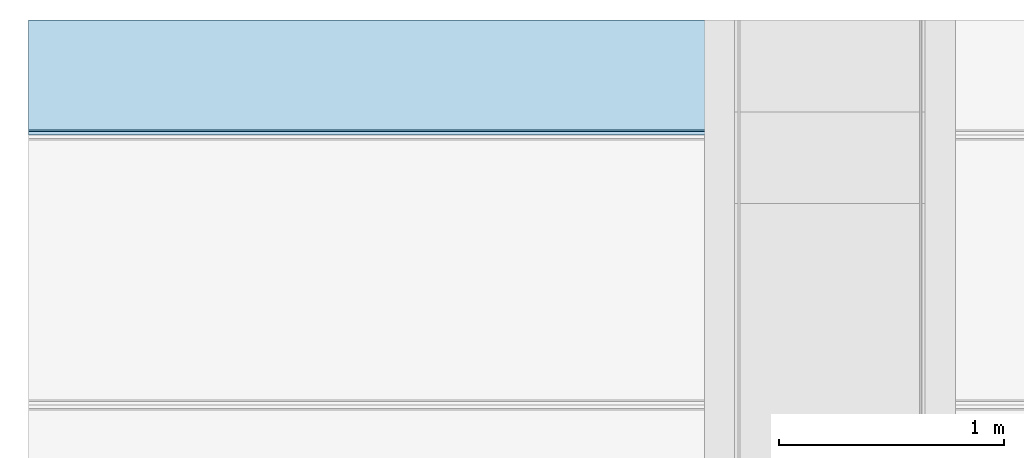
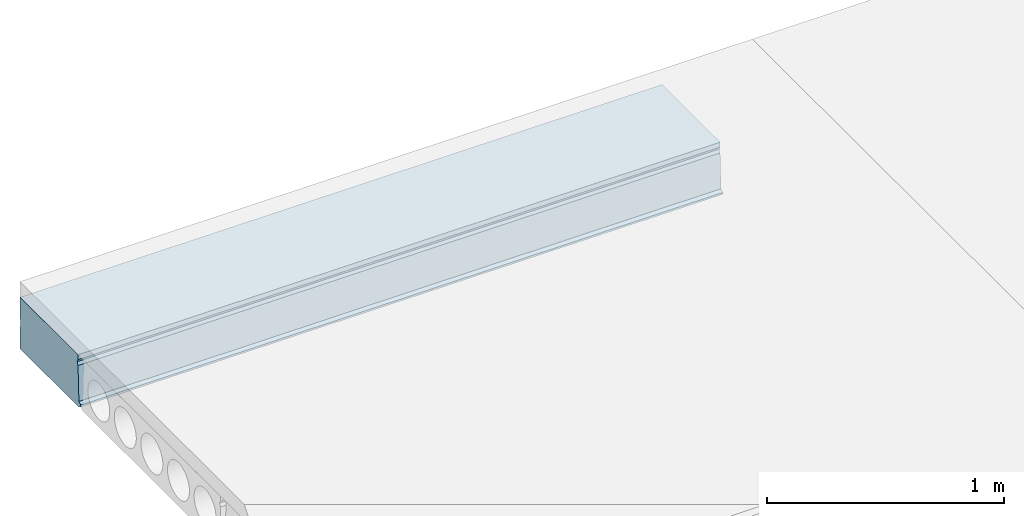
# One storey, part 19 of 21: 1 slab.
"""IFC2X3 building model written with IfcOpenShell, lengths in millimetres."""

from ifc_helpers import new_model, entity, si_unit, converted_unit, derived_unit, direction, frame, origin_with_axes, place, context, subcontext, project, spatial, faceted_brep, type_object, element, save


model = new_model("IFC2X3")

# Units and contexts
model_context = context("Model", 3, precision=0.01, world=frame((0.0, 4.29681676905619e-09, 0.0)), true_north=direction((4.01073788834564e-13, 1.0)))
plan_context = context("Plan", 3, precision=0.01, world=frame((0.0, 4.29681676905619e-09, 0.0)), true_north=direction((4.01073788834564e-13, 1.0)))
body_context = subcontext(model_context, "Body", "Model", "MODEL_VIEW")
ifc_project = project(units=[converted_unit("PLANEANGLEUNIT", "DEGREE", entity("IfcPositiveLengthMeasure", 0.0174532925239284), si_unit("PLANEANGLEUNIT", "RADIAN"), dimensions=[0, 0, 0, 0, 0, 0, 0]), si_unit("AREAUNIT", "SQUARE_METRE"), si_unit("LENGTHUNIT", "METRE", prefix="MILLI"), si_unit("MASSUNIT", "GRAM", prefix="KILO"), si_unit("POWERUNIT", "WATT"), si_unit("PRESSUREUNIT", "PASCAL", prefix="KILO"), si_unit("FORCEUNIT", "NEWTON", prefix="KILO"), si_unit("ELECTRICVOLTAGEUNIT", "VOLT"), si_unit("ELECTRICCURRENTUNIT", "AMPERE"), si_unit("THERMODYNAMICTEMPERATUREUNIT", "DEGREE_CELSIUS"), si_unit("TIMEUNIT", "SECOND"), si_unit("VOLUMEUNIT", "CUBIC_METRE"), derived_unit("LINEARVELOCITYUNIT", [(si_unit("LENGTHUNIT", "METRE"), 1), (si_unit("TIMEUNIT", "SECOND"), -1)]), derived_unit("VOLUMETRICFLOWRATEUNIT", [(si_unit("VOLUMEUNIT", "CUBIC_METRE"), 1), (si_unit("TIMEUNIT", "SECOND"), -1)]), derived_unit("THERMALTRANSMITTANCEUNIT", [(si_unit("POWERUNIT", "WATT"), 1), (si_unit("THERMODYNAMICTEMPERATUREUNIT", "KELVIN"), -1), (si_unit("AREAUNIT", "SQUARE_METRE"), -1)]), derived_unit("SOUNDPRESSUREUNIT", [(si_unit("PRESSUREUNIT", "PASCAL"), 1)])], contexts=[model_context, plan_context])

# Site, building, storey
site_placement = place(None, frame((0.0, -4.29681676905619e-09, 0.0), z_axis=(0.0, 0.0, 1.0), x_axis=(1.0, 0.0, 0.0)))
site = spatial("IfcSite", under=ifc_project, at=site_placement, Name="Gardermoen", CompositionType="ELEMENT")
building_placement = place(site_placement, frame((0.0, 4.29681676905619e-09, 0.0), z_axis=(0.0, 0.0, 1.0), x_axis=(1.0, 0.0, 0.0)))
building = spatial("IfcBuilding", under=site, at=building_placement, Name="TS", CompositionType="ELEMENT")
storey_placement = place(building_placement, origin_with_axes())
storey = spatial("IfcBuildingStorey", under=building, at=storey_placement, Name="F", CompositionType="ELEMENT", Elevation=0.0)

# Slab
slab_type = type_object("IfcSlabType", Name="HD265", PredefinedType="NOTDEFINED")
slab_placement = place(storey_placement, frame((709020.0, 446299.99967225, 210662.5), z_axis=(0.0, 0.0, 1.0), x_axis=(1.0, 0.0, 0.0)))
element("IfcSlab", 1, at=slab_placement, inside=storey, type_object=slab_type, Name="HULLDEKKE", ObjectType="HD265", PredefinedType="FLOOR", context=body_context, shape_type="Brep", body=[
    faceted_brep([(8542.0, -88.5752084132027, -132.5), (5417.98749999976, -88.5752084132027, -132.5), (5417.98749999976, -583.380004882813, -132.5), (8542.0, -583.380004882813, -132.5), (5417.98749999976, -600.0, -122.5), (8542.0, -600.0, -122.5), (8542.0, -88.5752084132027, 26.3831508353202), (5417.98749999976, -88.5752084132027, 26.3831508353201), (5417.98749999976, -89.6695245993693, 22.7074075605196), (8542.0, -89.6695245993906, 22.7074075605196), (5417.98749999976, -91.2384205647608, 15.2249996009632), (8542.0, -91.2384205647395, 15.2249996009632), (5417.98749999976, -92.1840656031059, 7.63858945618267), (8542.0, -92.1840656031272, 7.63858945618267), (5417.98749999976, -92.5, 0.0), (8542.0, -92.5, 0.0), (5417.98749999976, -92.1840656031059, -7.63858945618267), (8542.0, -92.1840656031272, -7.63858945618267), (5417.98749999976, -91.2384205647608, -15.2249996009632), (8542.0, -91.2384205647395, -15.2249996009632), (5417.98749999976, -89.6695245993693, -22.7074075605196), (8542.0, -89.6695245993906, -22.7074075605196), (5417.98749999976, -88.5752084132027, -26.3831508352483), (8542.0, -88.5752084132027, -26.3831508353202), (5417.98749999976, -600.0, -112.5), (8542.0, -600.0, -112.5), (5417.98749999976, -585.0, -102.5), (8542.0, -585.0, -102.5), (5417.98749999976, -577.5, 77.5), (8542.0, -577.5, 77.5), (5417.98749999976, -570.0, 92.5), (8542.0, -570.0, 92.5), (5417.98749999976, -577.5, 107.5), (8542.0, -577.5, 107.5), (5417.98749999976, -577.5, 132.5), (8542.0, -577.5, 132.5), (5417.98749999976, -447.999999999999, -92.4999999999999), (5417.98749999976, -440.361410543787, -92.1840656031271), (8542.0, -440.361410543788, -92.1840656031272), (8542.0, -448.0, -92.5), (5417.98749999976, -455.638589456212, -92.1840656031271), (8542.0, -455.638589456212, -92.1840656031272), (5417.98749999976, -463.22499960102, -91.2384205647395), (8542.0, -463.224999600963, -91.2384205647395), (5417.98749999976, -470.707407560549, -89.6695245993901), (8542.0, -470.707407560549, -89.6695245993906), (5417.98749999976, -478.03470090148, -87.4880948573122), (8542.0, -478.034700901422, -87.4880948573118), (5417.98749999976, -485.15682678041, -84.7090327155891), (8542.0, -485.15682678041, -84.7090327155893), (5417.98749999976, -492.025133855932, -81.3513219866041), (8542.0, -492.025133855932, -81.3513219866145), (5417.98749999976, -498.592704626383, -77.437899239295), (8542.0, -498.592704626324, -77.437899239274), (5417.98749999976, -504.814675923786, -72.9954971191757), (8542.0, -504.814675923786, -72.9954971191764), (5417.98749999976, -510.648545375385, -68.0544617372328), (8542.0, -510.648545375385, -68.0544617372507), (5417.98749999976, -516.054461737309, -62.6485453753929), (8542.0, -516.05446173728, -62.6485453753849), (5417.98749999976, -520.995497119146, -56.8146759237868), (8542.0, -520.995497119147, -56.8146759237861), (5417.98749999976, -525.437899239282, -50.5927046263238), (8542.0, -525.437899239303, -50.5927046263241), (5417.98749999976, -529.351321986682, -44.025133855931), (8542.0, -529.351321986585, -44.0251338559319), (5417.98749999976, -532.70903271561, -37.1568267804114), (8542.0, -532.709032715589, -37.1568267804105), (5417.98749999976, -535.488094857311, -30.0347009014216), (8542.0, -535.488094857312, -30.0347009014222), (5417.98749999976, -537.66952459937, -22.7074075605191), (8542.0, -537.669524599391, -22.7074075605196), (5417.98749999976, -539.238420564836, -15.2249996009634), (8542.0, -539.238420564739, -15.2249996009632), (5417.98749999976, -540.184065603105, -7.63858945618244), (8542.0, -540.184065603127, -7.63858945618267), (5417.98749999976, -540.500000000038, -9.09494701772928e-13), (8542.0, -540.5, 0.0), (5417.98749999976, -540.184065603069, 7.63858945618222), (8542.0, -540.184065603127, 7.63858945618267), (5417.98749999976, -539.23842056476, 15.2249996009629), (8542.0, -539.238420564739, 15.2249996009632), (5417.98749999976, -537.669524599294, 22.7074075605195), (8542.0, -537.669524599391, 22.7074075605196), (5417.98749999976, -535.488094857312, 30.0347009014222), (8542.0, -535.488094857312, 30.0347009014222), (5417.98749999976, -532.70903271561, 37.1568267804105), (8542.0, -532.709032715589, 37.1568267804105), (5417.98749999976, -529.351321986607, 44.0251338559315), (8542.0, -529.351321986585, 44.0251338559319), (5417.98749999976, -525.437899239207, 50.592704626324), (8542.0, -525.437899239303, 50.5927046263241), (5417.98749999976, -520.995497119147, 56.8146759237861), (8542.0, -520.995497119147, 56.8146759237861), (5417.98749999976, -516.05446173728, 62.648545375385), (8542.0, -516.05446173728, 62.6485453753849), (5417.98749999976, -510.648545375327, 68.0544617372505), (8542.0, -510.648545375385, 68.0544617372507), (5417.98749999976, -504.814675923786, 72.9954971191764), (8542.0, -504.814675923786, 72.9954971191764), (5417.98749999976, -498.592704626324, 77.4378992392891), (8542.0, -498.592704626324, 77.437899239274), (5417.98749999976, -492.025133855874, 81.3513219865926), (8542.0, -492.025133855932, 81.3513219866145), (5417.98749999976, -485.15682678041, 84.7090327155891), (8542.0, -485.15682678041, 84.7090327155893), (5417.98749999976, -478.034700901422, 87.4880948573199), (8542.0, -478.034700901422, 87.4880948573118), (5417.98749999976, -470.707407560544, 89.6695245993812), (8542.0, -470.707407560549, 89.6695245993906), (5417.98749999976, -463.224999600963, 91.2384205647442), (8542.0, -463.224999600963, 91.2384205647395), (5417.98749999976, -455.638589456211, 92.1840656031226), (8542.0, -455.638589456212, 92.1840656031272), (5417.98749999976, -448.0, 92.5000000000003), (8542.0, -448.0, 92.5), (5417.98749999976, -440.361410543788, 92.1840656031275), (8542.0, -440.361410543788, 92.1840656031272), (5417.98749999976, -432.775000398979, 91.2384205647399), (8542.0, -432.775000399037, 91.2384205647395), (5417.98749999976, -425.292592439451, 89.6695245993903), (8542.0, -425.292592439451, 89.6695245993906), (5417.98749999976, -417.96529909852, 87.4880948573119), (8542.0, -417.965299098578, 87.4880948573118), (5417.98749999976, -410.84317321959, 84.7090327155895), (8542.0, -410.84317321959, 84.7090327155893), (5417.98749999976, -403.974866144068, 81.351321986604), (8542.0, -403.974866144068, 81.3513219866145), (5417.98749999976, -397.407295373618, 77.4378992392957), (8542.0, -397.407295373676, 77.437899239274), (5417.98749999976, -391.185324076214, 72.9954971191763), (8542.0, -391.185324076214, 72.9954971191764), (5417.98749999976, -385.351454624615, 68.0544617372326), (8542.0, -385.351454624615, 68.0544617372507), (5417.98749999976, -379.945538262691, 62.6485453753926), (8542.0, -379.94553826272, 62.6485453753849), (5417.98749999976, -375.004502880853, 56.8146759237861), (8542.0, -375.004502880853, 56.8146759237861), (5417.98749999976, -370.562100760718, 50.5927046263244), (8542.0, -370.562100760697, 50.5927046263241), (5417.98749999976, -366.648678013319, 44.0251338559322), (8542.0, -366.648678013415, 44.0251338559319), (5417.98749999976, -363.29096728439, 37.1568267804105), (8542.0, -363.290967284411, 37.1568267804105), (5417.98749999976, -360.511905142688, 30.0347009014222), (8542.0, -360.511905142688, 30.0347009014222), (5417.98749999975, -358.330475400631, 22.7074075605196), (8542.0, -358.330475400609, 22.7074075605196), (5417.98749999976, -356.761579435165, 15.2249996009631), (8542.0, -356.761579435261, 15.2249996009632), (5417.98749999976, -355.815934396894, 7.63858945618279), (8542.0, -355.815934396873, 7.63858945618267), (5417.98749999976, -355.5, 0.0), (8542.0, -355.5, 0.0), (5417.98749999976, -355.81593439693, -7.63858945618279), (8542.0, -355.815934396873, -7.63858945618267), (5417.98749999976, -356.761579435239, -15.2249996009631), (8542.0, -356.761579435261, -15.2249996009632), (5417.98749999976, -358.330475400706, -22.7074075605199), (8542.0, -358.330475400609, -22.7074075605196), (5417.98749999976, -360.511905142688, -30.0347009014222), (8542.0, -360.511905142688, -30.0347009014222), (5417.98749999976, -363.29096728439, -37.15682678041), (8542.0, -363.290967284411, -37.1568267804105), (5417.98749999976, -366.648678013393, -44.0251338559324), (8542.0, -366.648678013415, -44.0251338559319), (5417.98749999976, -370.562100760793, -50.5927046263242), (8542.0, -370.562100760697, -50.5927046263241), (5417.98749999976, -375.004502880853, -56.8146759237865), (8542.0, -375.004502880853, -56.8146759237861), (5417.98749999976, -379.94553826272, -62.6485453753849), (8542.0, -379.94553826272, -62.6485453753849), (5417.98749999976, -385.351454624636, -68.0544617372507), (8542.0, -385.351454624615, -68.0544617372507), (5417.98749999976, -391.185324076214, -72.9954971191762), (8542.0, -391.185324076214, -72.9954971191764), (5417.98749999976, -397.407295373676, -77.4378992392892), (8542.0, -397.407295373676, -77.437899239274), (5417.98749999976, -403.974866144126, -81.3513219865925), (8542.0, -403.974866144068, -81.3513219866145), (5417.98749999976, -410.84317321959, -84.709032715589), (8542.0, -410.84317321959, -84.7090327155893), (5417.98749999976, -417.965299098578, -87.4880948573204), (8542.0, -417.965299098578, -87.4880948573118), (5417.98749999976, -425.292592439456, -89.669524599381), (8542.0, -425.292592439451, -89.6695245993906), (5417.98749999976, -432.775000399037, -91.2384205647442), (8542.0, -432.775000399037, -91.2384205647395), (5417.98749999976, -224.0, -92.4999999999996), (5417.98749999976, -216.361410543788, -92.1840656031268), (8542.0, -216.361410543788, -92.1840656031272), (8542.0, -224.0, -92.5), (5417.98749999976, -231.638589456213, -92.1840656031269), (8542.0, -231.638589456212, -92.1840656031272), (5417.98749999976, -239.22499960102, -91.2384205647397), (8542.0, -239.224999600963, -91.2384205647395), (5417.98749999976, -246.70740756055, -89.6695245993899), (8542.0, -246.707407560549, -89.6695245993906), (5417.98749999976, -254.03470090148, -87.4880948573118), (8542.0, -254.034700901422, -87.4880948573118), (5417.98749999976, -261.15682678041, -84.7090327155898), (8542.0, -261.15682678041, -84.7090327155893), (5417.98749999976, -268.025133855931, -81.3513219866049), (8542.0, -268.025133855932, -81.3513219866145), (5417.98749999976, -274.592704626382, -77.4378992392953), (8542.0, -274.592704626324, -77.437899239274), (5417.98749999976, -280.814675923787, -72.9954971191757), (8542.0, -280.814675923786, -72.9954971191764), (5417.98749999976, -286.648545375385, -68.0544617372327), (8542.0, -286.648545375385, -68.0544617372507), (5417.98749999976, -292.054461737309, -62.648545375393), (8542.0, -292.05446173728, -62.6485453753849), (5417.98749999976, -296.995497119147, -56.8146759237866), (8542.0, -296.995497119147, -56.8146759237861), (5417.98749999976, -301.437899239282, -50.5927046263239), (8542.0, -301.437899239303, -50.5927046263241), (5417.98749999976, -305.351321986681, -44.025133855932), (8542.0, -305.351321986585, -44.0251338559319), (5417.98749999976, -308.70903271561, -37.156826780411), (8542.0, -308.709032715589, -37.1568267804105), (5417.98749999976, -311.488094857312, -30.0347009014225), (8542.0, -311.488094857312, -30.0347009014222), (5417.98749999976, -313.669524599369, -22.7074075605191), (8542.0, -313.669524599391, -22.7074075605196), (5417.98749999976, -315.238420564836, -15.2249996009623), (8542.0, -315.238420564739, -15.2249996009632), (5417.98749999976, -316.184065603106, -7.63858945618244), (8542.0, -316.184065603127, -7.63858945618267), (5417.98749999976, -316.500000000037, -3.41060513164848e-13), (8542.0, -316.5, 0.0), (5417.98749999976, -316.18406560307, 7.63858945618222), (8542.0, -316.184065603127, 7.63858945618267), (5417.98749999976, -315.238420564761, 15.2249996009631), (8542.0, -315.238420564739, 15.2249996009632), (5417.98749999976, -313.669524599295, 22.7074075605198), (8542.0, -313.669524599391, 22.7074075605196), (5417.98749999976, -311.488094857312, 30.034700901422), (8542.0, -311.488094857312, 30.0347009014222), (5417.98749999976, -308.70903271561, 37.1568267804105), (8542.0, -308.709032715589, 37.1568267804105), (5417.98749999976, -305.351321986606, 44.0251338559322), (8542.0, -305.351321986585, 44.0251338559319), (5417.98749999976, -301.437899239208, 50.592704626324), (8542.0, -301.437899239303, 50.5927046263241), (5417.98749999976, -296.995497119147, 56.8146759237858), (8542.0, -296.995497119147, 56.8146759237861), (5417.98749999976, -292.05446173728, 62.648545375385), (8542.0, -292.05446173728, 62.6485453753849), (5417.98749999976, -286.648545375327, 68.0544617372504), (8542.0, -286.648545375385, 68.0544617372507), (5417.98749999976, -280.814675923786, 72.9954971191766), (8542.0, -280.814675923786, 72.9954971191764), (5417.98749999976, -274.592704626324, 77.4378992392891), (8542.0, -274.592704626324, 77.437899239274), (5417.98749999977, -268.025133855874, 81.3513219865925), (8542.0, -268.025133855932, 81.3513219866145), (5417.98749999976, -261.15682678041, 84.7090327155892), (8542.0, -261.15682678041, 84.7090327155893), (5417.98749999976, -254.034700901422, 87.4880948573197), (8542.0, -254.034700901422, 87.4880948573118), (5417.98749999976, -246.707407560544, 89.6695245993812), (8542.0, -246.707407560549, 89.6695245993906), (5417.98749999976, -239.224999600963, 91.2384205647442), (8542.0, -239.224999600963, 91.2384205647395), (5417.98749999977, -231.638589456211, 92.1840656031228), (8542.0, -231.638589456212, 92.1840656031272), (5417.98749999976, -224.0, 92.5000000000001), (8542.0, -224.0, 92.5), (5417.98749999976, -216.361410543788, 92.1840656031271), (8542.0, -216.361410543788, 92.1840656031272), (5417.98749999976, -208.775000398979, 91.2384205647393), (8542.0, -208.775000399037, 91.2384205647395), (5417.98749999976, -201.292592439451, 89.6695245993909), (8542.0, -201.292592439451, 89.6695245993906), (5417.98749999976, -193.96529909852, 87.4880948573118), (8542.0, -193.965299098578, 87.4880948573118), (5417.98749999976, -186.84317321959, 84.7090327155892), (8542.0, -186.84317321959, 84.7090327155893), (5417.98749999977, -179.974866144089, 81.3513219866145), (8542.0, -179.974866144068, 81.3513219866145), (5417.98749999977, -173.407295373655, 77.437899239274), (8542.0, -173.407295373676, 77.437899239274), (5417.98749999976, -167.185324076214, 72.9954971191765), (8542.0, -167.185324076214, 72.9954971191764), (5417.98749999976, -161.351454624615, 68.054461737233), (8542.0, -161.351454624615, 68.0544617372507), (5417.98749999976, -155.945538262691, 62.6485453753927), (8542.0, -155.94553826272, 62.6485453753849), (5417.98749999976, -151.004502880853, 56.814675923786), (8542.0, -151.004502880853, 56.8146759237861), (5417.98749999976, -146.562100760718, 50.5927046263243), (8542.0, -146.562100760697, 50.5927046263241), (5417.98749999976, -142.648678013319, 44.0251338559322), (8542.0, -142.648678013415, 44.0251338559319), (5417.98749999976, -139.29096728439, 37.1568267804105), (8542.0, -139.290967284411, 37.1568267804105), (5417.98749999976, -136.511905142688, 30.0347009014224), (8542.0, -136.511905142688, 30.0347009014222), (5417.98749999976, -134.330475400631, 22.7074075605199), (8542.0, -134.330475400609, 22.7074075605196), (5417.98749999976, -132.761579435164, 15.2249996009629), (8542.0, -132.761579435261, 15.2249996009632), (5417.98749999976, -131.815934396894, 7.63858945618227), (8542.0, -131.815934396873, 7.63858945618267), (5417.98749999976, -131.499999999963, 1.13686837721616e-13), (8542.0, -131.5, 0.0), (5417.98749999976, -131.815934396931, -7.6385894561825), (8542.0, -131.815934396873, -7.63858945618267), (5417.98749999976, -132.761579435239, -15.2249996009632), (8542.0, -132.761579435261, -15.2249996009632), (5417.98749999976, -134.330475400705, -22.7074075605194), (8542.0, -134.330475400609, -22.7074075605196), (5417.98749999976, -136.511905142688, -30.0347009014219), (8542.0, -136.511905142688, -30.0347009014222), (5417.98749999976, -139.29096728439, -37.1568267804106), (8542.0, -139.290967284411, -37.1568267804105), (5417.98749999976, -142.648678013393, -44.0251338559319), (8542.0, -142.648678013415, -44.0251338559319), (5417.98749999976, -146.562100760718, -50.5927046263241), (8542.0, -146.562100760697, -50.5927046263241), (5417.98749999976, -151.004502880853, -56.8146759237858), (8542.0, -151.004502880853, -56.8146759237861), (5417.98749999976, -155.94553826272, -62.6485453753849), (8542.0, -155.94553826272, -62.6485453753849), (5417.98749999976, -161.351454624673, -68.0544617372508), (8542.0, -161.351454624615, -68.0544617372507), (5417.98749999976, -167.185324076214, -72.9954971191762), (8542.0, -167.185324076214, -72.9954971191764), (5417.98749999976, -173.407295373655, -77.437899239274), (8542.0, -173.407295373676, -77.437899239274), (5417.98749999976, -179.974866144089, -81.3513219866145), (8542.0, -179.974866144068, -81.3513219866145), (5417.98749999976, -186.84317321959, -84.7090327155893), (8542.0, -186.84317321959, -84.7090327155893), (5417.98749999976, -193.965299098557, -87.4880948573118), (8542.0, -193.965299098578, -87.4880948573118), (5417.98749999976, -201.292592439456, -89.6695245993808), (8542.0, -201.292592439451, -89.6695245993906), (5417.98749999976, -208.775000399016, -91.2384205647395), (8542.0, -208.775000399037, -91.2384205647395), (5417.98749999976, -88.5752084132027, 132.5), (8542.0, -88.5752084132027, 132.5)], [[[0, 1, 2, 3]], [[2, 4, 5, 3]], [[6, 7, 8, 9]], [[8, 10, 11, 9]], [[10, 12, 13, 11]], [[12, 14, 15, 13]], [[14, 16, 17, 15]], [[16, 18, 19, 17]], [[18, 20, 21, 19]], [[20, 22, 23, 21]], [[4, 24, 25, 5]], [[24, 26, 27, 25]], [[26, 28, 29, 27]], [[28, 30, 31, 29]], [[30, 32, 33, 31]], [[32, 34, 35, 33]], [[36, 37, 38, 39]], [[40, 36, 39, 41]], [[42, 40, 41, 43]], [[44, 42, 43, 45]], [[46, 44, 45, 47]], [[48, 46, 47, 49]], [[50, 48, 49, 51]], [[52, 50, 51, 53]], [[54, 52, 53, 55]], [[56, 54, 55, 57]], [[58, 56, 57, 59]], [[60, 58, 59, 61]], [[62, 60, 61, 63]], [[64, 62, 63, 65]], [[66, 64, 65, 67]], [[68, 66, 67, 69]], [[70, 68, 69, 71]], [[72, 70, 71, 73]], [[74, 72, 73, 75]], [[76, 74, 75, 77]], [[78, 76, 77, 79]], [[80, 78, 79, 81]], [[82, 80, 81, 83]], [[84, 82, 83, 85]], [[86, 84, 85, 87]], [[88, 86, 87, 89]], [[90, 88, 89, 91]], [[92, 90, 91, 93]], [[94, 92, 93, 95]], [[96, 94, 95, 97]], [[98, 96, 97, 99]], [[100, 98, 99, 101]], [[102, 100, 101, 103]], [[104, 102, 103, 105]], [[106, 104, 105, 107]], [[108, 106, 107, 109]], [[110, 108, 109, 111]], [[112, 110, 111, 113]], [[114, 112, 113, 115]], [[116, 114, 115, 117]], [[118, 116, 117, 119]], [[120, 118, 119, 121]], [[122, 120, 121, 123]], [[124, 122, 123, 125]], [[126, 124, 125, 127]], [[128, 126, 127, 129]], [[130, 128, 129, 131]], [[132, 130, 131, 133]], [[134, 132, 133, 135]], [[136, 134, 135, 137]], [[138, 136, 137, 139]], [[140, 138, 139, 141]], [[142, 140, 141, 143]], [[144, 142, 143, 145]], [[146, 144, 145, 147]], [[148, 146, 147, 149]], [[150, 148, 149, 151]], [[152, 150, 151, 153]], [[154, 152, 153, 155]], [[156, 154, 155, 157]], [[158, 156, 157, 159]], [[160, 158, 159, 161]], [[162, 160, 161, 163]], [[164, 162, 163, 165]], [[166, 164, 165, 167]], [[168, 166, 167, 169]], [[170, 168, 169, 171]], [[172, 170, 171, 173]], [[174, 172, 173, 175]], [[176, 174, 175, 177]], [[178, 176, 177, 179]], [[180, 178, 179, 181]], [[182, 180, 181, 183]], [[184, 182, 183, 185]], [[186, 184, 185, 187]], [[37, 186, 187, 38]], [[188, 189, 190, 191]], [[192, 188, 191, 193]], [[194, 192, 193, 195]], [[196, 194, 195, 197]], [[198, 196, 197, 199]], [[200, 198, 199, 201]], [[202, 200, 201, 203]], [[204, 202, 203, 205]], [[206, 204, 205, 207]], [[208, 206, 207, 209]], [[210, 208, 209, 211]], [[212, 210, 211, 213]], [[214, 212, 213, 215]], [[216, 214, 215, 217]], [[218, 216, 217, 219]], [[220, 218, 219, 221]], [[222, 220, 221, 223]], [[224, 222, 223, 225]], [[226, 224, 225, 227]], [[228, 226, 227, 229]], [[230, 228, 229, 231]], [[232, 230, 231, 233]], [[234, 232, 233, 235]], [[236, 234, 235, 237]], [[238, 236, 237, 239]], [[240, 238, 239, 241]], [[242, 240, 241, 243]], [[244, 242, 243, 245]], [[246, 244, 245, 247]], [[248, 246, 247, 249]], [[250, 248, 249, 251]], [[252, 250, 251, 253]], [[254, 252, 253, 255]], [[256, 254, 255, 257]], [[258, 256, 257, 259]], [[260, 258, 259, 261]], [[262, 260, 261, 263]], [[264, 262, 263, 265]], [[266, 264, 265, 267]], [[268, 266, 267, 269]], [[270, 268, 269, 271]], [[272, 270, 271, 273]], [[274, 272, 273, 275]], [[276, 274, 275, 277]], [[278, 276, 277, 279]], [[280, 278, 279, 281]], [[282, 280, 281, 283]], [[284, 282, 283, 285]], [[286, 284, 285, 287]], [[288, 286, 287, 289]], [[290, 288, 289, 291]], [[292, 290, 291, 293]], [[294, 292, 293, 295]], [[296, 294, 295, 297]], [[298, 296, 297, 299]], [[300, 298, 299, 301]], [[302, 300, 301, 303]], [[304, 302, 303, 305]], [[306, 304, 305, 307]], [[308, 306, 307, 309]], [[310, 308, 309, 311]], [[312, 310, 311, 313]], [[314, 312, 313, 315]], [[316, 314, 315, 317]], [[318, 316, 317, 319]], [[320, 318, 319, 321]], [[322, 320, 321, 323]], [[324, 322, 323, 325]], [[326, 324, 325, 327]], [[328, 326, 327, 329]], [[330, 328, 329, 331]], [[332, 330, 331, 333]], [[334, 332, 333, 335]], [[336, 334, 335, 337]], [[338, 336, 337, 339]], [[189, 338, 339, 190]], [[34, 340, 341, 35]], [[341, 6, 9, 11, 13, 15, 17, 19, 21, 23, 0, 3, 5, 25, 27, 29, 31, 33, 35], [193, 191, 190, 339, 337, 335, 333, 331, 329, 327, 325, 323, 321, 319, 317, 315, 313, 311, 309, 307, 305, 303, 301, 299, 297, 295, 293, 291, 289, 287, 285, 283, 281, 279, 277, 275, 273, 271, 269, 267, 265, 263, 261, 259, 257, 255, 253, 251, 249, 247, 245, 243, 241, 239, 237, 235, 233, 231, 229, 227, 225, 223, 221, 219, 217, 215, 213, 211, 209, 207, 205, 203, 201, 199, 197, 195], [41, 39, 38, 187, 185, 183, 181, 179, 177, 175, 173, 171, 169, 167, 165, 163, 161, 159, 157, 155, 153, 151, 149, 147, 145, 143, 141, 139, 137, 135, 133, 131, 129, 127, 125, 123, 121, 119, 117, 115, 113, 111, 109, 107, 105, 103, 101, 99, 97, 95, 93, 91, 89, 87, 85, 83, 81, 79, 77, 75, 73, 71, 69, 67, 65, 63, 61, 59, 57, 55, 53, 51, 49, 47, 45, 43]], [[1, 0, 23, 22]], [[7, 6, 341, 340]], [[340, 34, 32, 30, 28, 26, 24, 4, 2, 1, 22, 20, 18, 16, 14, 12, 10, 8, 7]]], orient=[[False], [False], [False], [False], [False], [False], [False], [False], [False], [False], [False], [False], [False], [False], [False], [False], [False], [False], [False], [False], [False], [False], [False], [False], [False], [False], [False], [False], [False], [False], [False], [False], [False], [False], [False], [False], [False], [False], [False], [False], [False], [False], [False], [False], [False], [False], [False], [False], [False], [False], [False], [False], [False], [False], [False], [False], [False], [False], [False], [False], [False], [False], [False], [False], [False], [False], [False], [False], [False], [False], [False], [False], [False], [False], [False], [False], [False], [False], [False], [False], [False], [False], [False], [False], [False], [False], [False], [False], [False], [False], [False], [False], [False], [False], [False], [False], [False], [False], [False], [False], [False], [False], [False], [False], [False], [False], [False], [False], [False], [False], [False], [False], [False], [False], [False], [False], [False], [False], [False], [False], [False], [False], [False], [False], [False], [False], [False], [False], [False], [False], [False], [False], [False], [False], [False], [False], [False], [False], [False], [False], [False], [False], [False], [False], [False], [False], [False], [False], [False], [False], [False], [False], [False], [False], [False], [False], [False], [False], [False], [False], [False], [False], [False], [False], [False], [False], [False], [False], [False], [False, False, False], [False], [False], [False]]),
])

save(model, "model.ifc")
